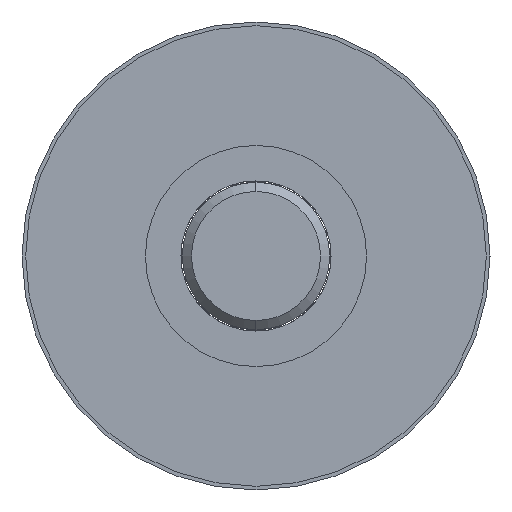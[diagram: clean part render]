
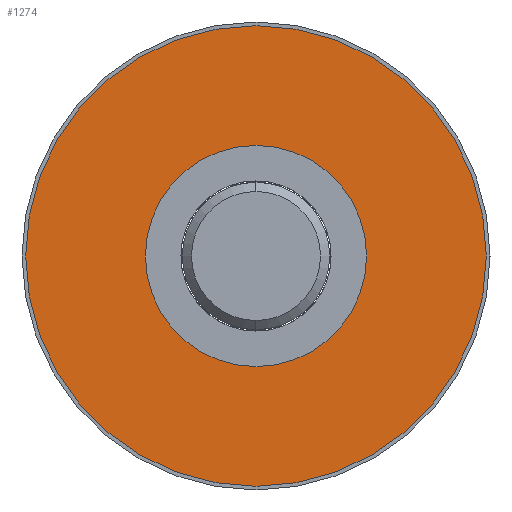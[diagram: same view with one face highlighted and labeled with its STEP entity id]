
A CAD part, left-side view. The second image highlights one B-rep face of the part: STEP entity #1274.
In plain terms, the highlighted planar face has unit normal (-1, 0, 0).
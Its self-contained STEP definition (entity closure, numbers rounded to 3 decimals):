
#82 = VERTEX_POINT ( 'NONE', #1268 ) ;
#109 = FACE_BOUND ( 'NONE', #1743, .T. ) ;
#116 = CARTESIAN_POINT ( 'NONE',  ( 5., 0., 0. ) ) ;
#124 = VERTEX_POINT ( 'NONE', #1289 ) ;
#145 = CIRCLE ( 'NONE', #179, 12.5 ) ;
#179 = AXIS2_PLACEMENT_3D ( 'NONE', #1273, #1626, #1092 ) ;
#202 = DIRECTION ( 'NONE',  ( -1., 0., 0. ) ) ;
#250 = AXIS2_PLACEMENT_3D ( 'NONE', #1791, #202, #1602 ) ;
#301 = DIRECTION ( 'NONE',  ( -1., 0., 0. ) ) ;
#304 = CARTESIAN_POINT ( 'NONE',  ( 5., 6., 0. ) ) ;
#644 = DIRECTION ( 'NONE',  ( -1., 0., 0. ) ) ;
#651 = EDGE_CURVE ( 'NONE', #124, #82, #746, .T. ) ;
#689 = DIRECTION ( 'NONE',  ( 0., 0., -1. ) ) ;
#706 = ORIENTED_EDGE ( 'NONE', *, *, #1495, .F. ) ;
#712 = CARTESIAN_POINT ( 'NONE',  ( 5., 0., -6. ) ) ;
#746 = CIRCLE ( 'NONE', #1886, 12.5 ) ;
#788 = EDGE_CURVE ( 'NONE', #1078, #1521, #1125, .T. ) ;
#957 = ORIENTED_EDGE ( 'NONE', *, *, #651, .T. ) ;
#1021 = AXIS2_PLACEMENT_3D ( 'NONE', #304, #2288, #689 ) ;
#1075 = ORIENTED_EDGE ( 'NONE', *, *, #2026, .T. ) ;
#1078 = VERTEX_POINT ( 'NONE', #712 ) ;
#1092 = DIRECTION ( 'NONE',  ( 0., 0., 1. ) ) ;
#1125 = CIRCLE ( 'NONE', #1160, 6. ) ;
#1160 = AXIS2_PLACEMENT_3D ( 'NONE', #116, #644, #1712 ) ;
#1217 = CARTESIAN_POINT ( 'NONE',  ( 5., 0., 0. ) ) ;
#1268 = CARTESIAN_POINT ( 'NONE',  ( 5., 0., 12.5 ) ) ;
#1273 = CARTESIAN_POINT ( 'NONE',  ( 5., 0., 0. ) ) ;
#1274 = ADVANCED_FACE ( 'NONE', ( #109, #2277 ), #1351, .F. ) ;
#1289 = CARTESIAN_POINT ( 'NONE',  ( 5., 0., -12.5 ) ) ;
#1351 = PLANE ( 'NONE',  #1021 ) ;
#1495 = EDGE_CURVE ( 'NONE', #1521, #1078, #1717, .T. ) ;
#1507 = ORIENTED_EDGE ( 'NONE', *, *, #788, .F. ) ;
#1521 = VERTEX_POINT ( 'NONE', #2209 ) ;
#1602 = DIRECTION ( 'NONE',  ( 0., 0., 1. ) ) ;
#1626 = DIRECTION ( 'NONE',  ( -1., 0., 0. ) ) ;
#1712 = DIRECTION ( 'NONE',  ( 0., 0., 1. ) ) ;
#1717 = CIRCLE ( 'NONE', #250, 6. ) ;
#1743 = EDGE_LOOP ( 'NONE', ( #706, #1507 ) ) ;
#1791 = CARTESIAN_POINT ( 'NONE',  ( 5., 0., 0. ) ) ;
#1865 = DIRECTION ( 'NONE',  ( 0., 0., 1. ) ) ;
#1886 = AXIS2_PLACEMENT_3D ( 'NONE', #1217, #301, #1865 ) ;
#2026 = EDGE_CURVE ( 'NONE', #82, #124, #145, .T. ) ;
#2072 = EDGE_LOOP ( 'NONE', ( #1075, #957 ) ) ;
#2209 = CARTESIAN_POINT ( 'NONE',  ( 5., 0., 6. ) ) ;
#2277 = FACE_OUTER_BOUND ( 'NONE', #2072, .T. ) ;
#2288 = DIRECTION ( 'NONE',  ( 1., 0., 0. ) ) ;
